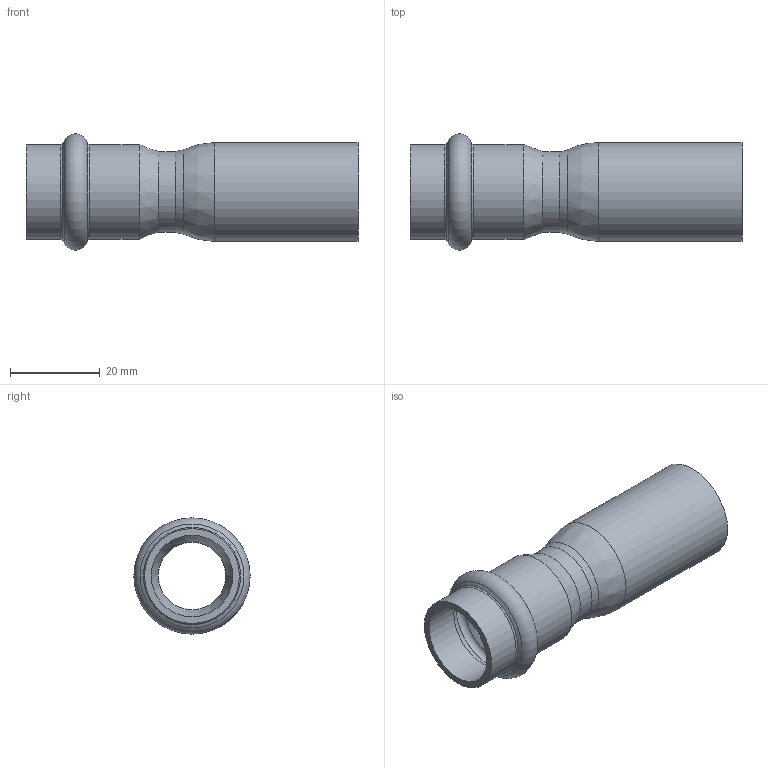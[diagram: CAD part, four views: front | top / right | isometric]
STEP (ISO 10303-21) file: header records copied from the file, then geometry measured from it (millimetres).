
FILE_DESCRIPTION((''),'2;1');
FILE_NAME('G:\Technics\CAD\Bauteile\022\692432218(1).stp','2008-02-21T15:21:32',('herberg'),(''),'Autodesk Inventor 2008','Autodesk Inventor 2008','');
FILE_SCHEMA(('AUTOMOTIVE_DESIGN { 1 0 10303 214 1 1 1 1 }'));
Length unit declared in the file: millimetre
Products named in the file (1): 692432218(1)
Bounding box: 74 x 25.9 x 25.9 mm (x, y, z)
Volume: 7205.9 mm3; surface area: 9796.7 mm2
Topology: 1 solids, 1 shells, 24 faces, 50 edges, 28 vertices
Faces by surface type: bspline 8, cylinder 8, cone 4, torus 2, plane 2
Full cylindrical faces by diameter (mm): 15 x1, 18 x1, 18.15 x2, 19 x1, 21.15 x2, 22 x1
Entity records: 780 total; most frequent: CARTESIAN_POINT 371, DIRECTION 82, ORIENTED_EDGE 48, EDGE_LOOP 48, AXIS2_PLACEMENT_3D 41, VERTEX_POINT 24, CIRCLE 24, EDGE_CURVE 24
